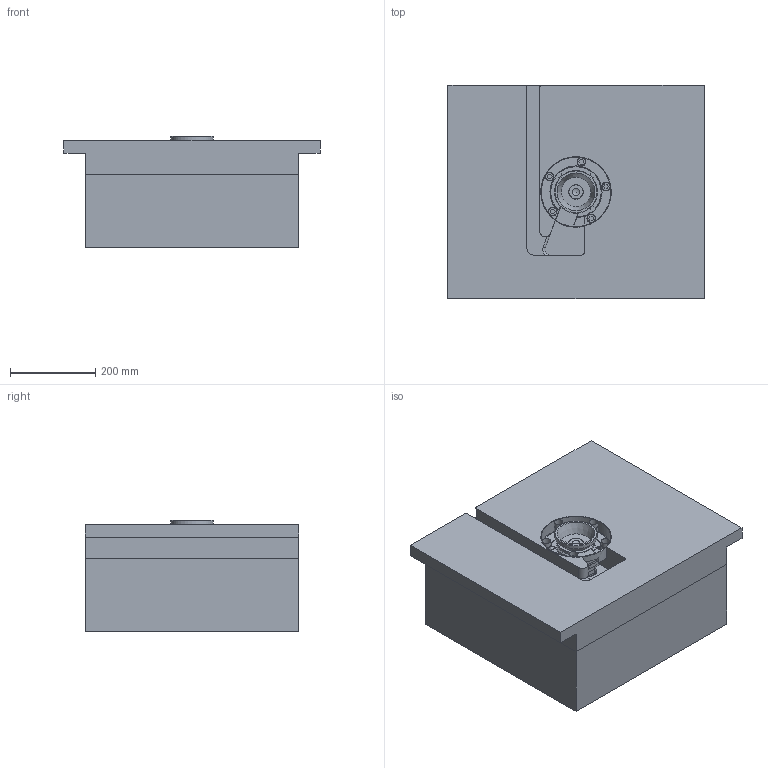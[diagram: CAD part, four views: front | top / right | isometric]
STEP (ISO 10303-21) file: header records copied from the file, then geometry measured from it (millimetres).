
FILE_DESCRIPTION( ( 'STEP AP214' ), '1' );
FILE_NAME( 'D:/PROIECTE_YUDO_2009/PROIECTE YUDO 3D/SAS/YUEU09-SAS42VC209_6/SAS42VC209_6.step', '2009-04-24T09:02:47', ( ' ' ), ( ' ' ), 'XStep 1.0', ' ', ' ' );
FILE_SCHEMA( ( 'automotive_design' ) );
Length unit declared in the file: millimetre
Products named in the file (26): 1; 2; 3; 4; 5; 6; 7; 8; 9; 10; 11; 12; 13; 14; 15; 16; 17; 18; 19; 20; 21; 22; 23; 24; 25; 26
Bounding box: 600 x 500 x 261.5 mm (x, y, z)
Volume: 63299654.8 mm3; surface area: 1928920.3 mm2
Topology: 26 solids, 26 shells, 614 faces, 1333 edges, 876 vertices
Faces by surface type: plane 339, cylinder 193, cone 67, torus 12, bspline 2, sphere 1
Full cylindrical faces by diameter (mm): 2.5 x2, 3.6 x2, 5.34 x8, 5.35 x16, 6 x18, 7 x12, 10 x11, 10.5 x1, 11.34 x5, 11.35 x10, 12 x5, 13 x5, 14 x5, 19 x5, 20 x5, 28 x1, 33 x2, 36 x1, 39 x1, 42 x4, 51.4 x1, 57 x1, 58 x2, 85 x1, 100 x1, 119 x4, 120 x4, 165 x1
Entity records: 20889 total; most frequent: CARTESIAN_POINT 2873, DIRECTION 2787, ORIENTED_EDGE 2142, AXIS2_PLACEMENT_3D 1117, EDGE_CURVE 1071, EDGE_LOOP 945, VERTEX_POINT 827, FACE_OUTER_BOUND 760
